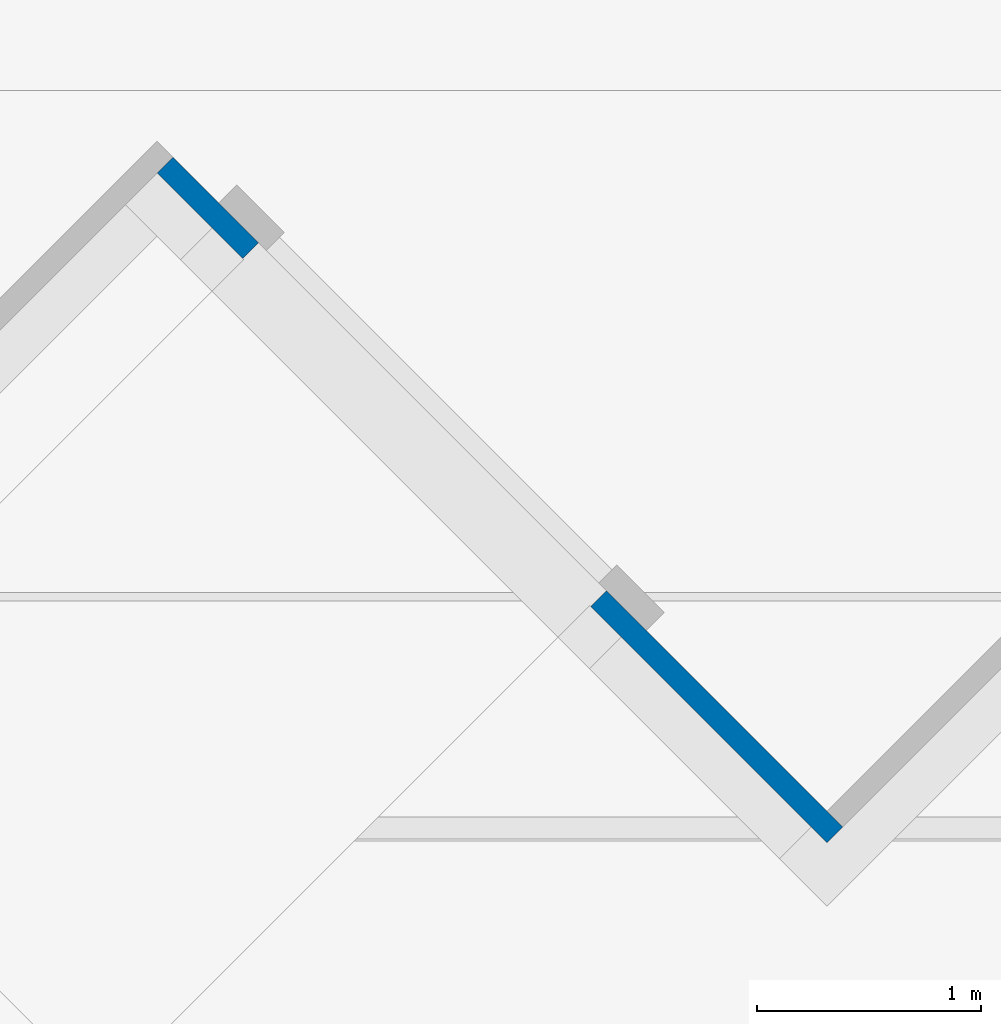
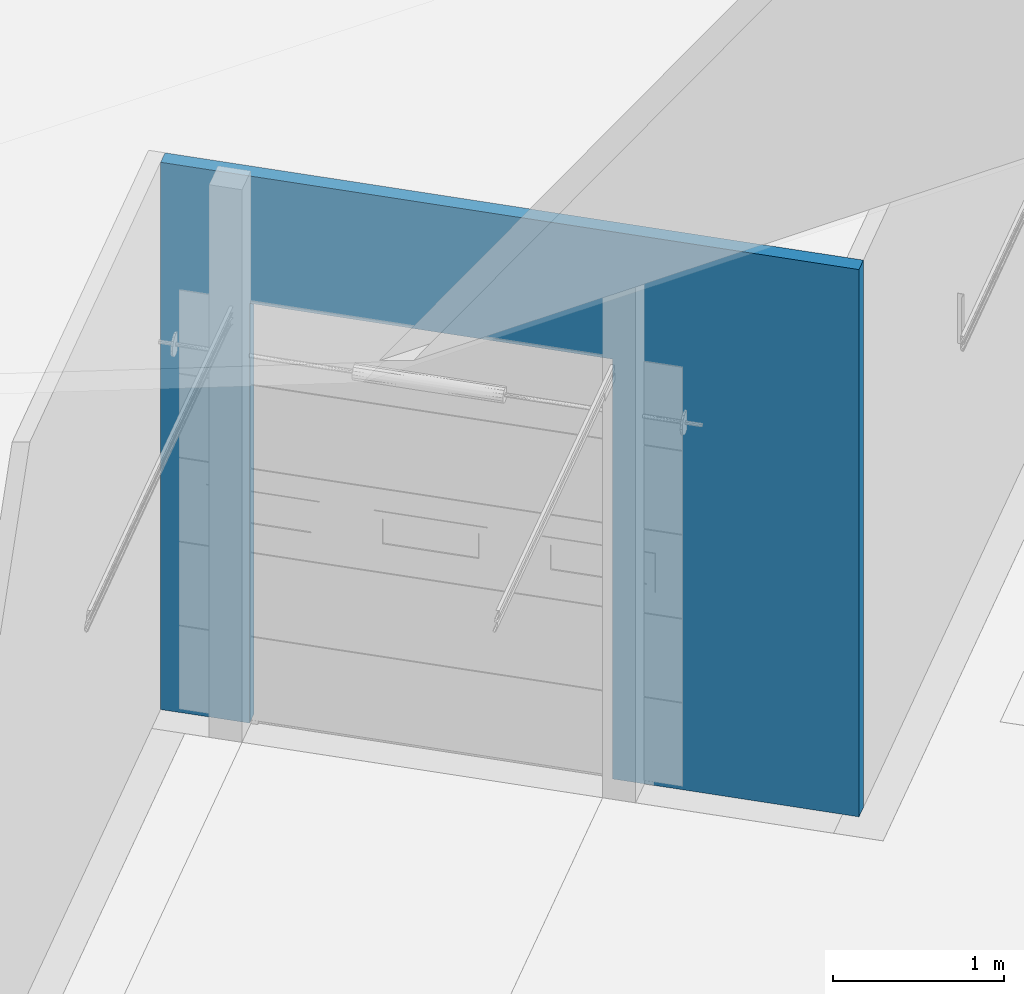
# One storey, part 42 of 64: 1 wall, 1 opening.
"""IFC2X3 building model written with IfcOpenShell, lengths in millimetres."""

from ifc_helpers import new_model, entity, si_unit, converted_unit, derived_unit, direction, frame, frame_2d, origin, place, context, subcontext, project, spatial, rectangle, extrude, material, layer, layer_set, layer_usage, type_object, element, save


model = new_model("IFC2X3")

# Units and contexts
model_context = context("Model", 3, precision=0.01, world=origin(), true_north=direction((4.05803320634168e-15, -1.0)))
body_context = subcontext(model_context, "Body", "Model", "MODEL_VIEW")
ifc_project = project(units=[si_unit("LENGTHUNIT", "METRE", prefix="MILLI"), si_unit("AREAUNIT", "SQUARE_METRE"), si_unit("VOLUMEUNIT", "CUBIC_METRE"), converted_unit("PLANEANGLEUNIT", "DEGREE", entity("IfcRatioMeasure", 0.0174532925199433), si_unit("PLANEANGLEUNIT", "RADIAN"), dimensions=[0, 0, 0, 0, 0, 0, 0]), si_unit("MASSUNIT", "GRAM", prefix="KILO"), derived_unit("MASSDENSITYUNIT", [(si_unit("MASSUNIT", "GRAM", prefix="KILO"), 1), (si_unit("LENGTHUNIT", "METRE"), -3)]), si_unit("TIMEUNIT", "SECOND"), si_unit("FREQUENCYUNIT", "HERTZ"), si_unit("THERMODYNAMICTEMPERATUREUNIT", "DEGREE_CELSIUS"), derived_unit("THERMALTRANSMITTANCEUNIT", [(si_unit("MASSUNIT", "GRAM", prefix="KILO"), 1), (si_unit("THERMODYNAMICTEMPERATUREUNIT", "KELVIN"), -1), (si_unit("TIMEUNIT", "SECOND"), -3)]), derived_unit("VOLUMETRICFLOWRATEUNIT", [(si_unit("LENGTHUNIT", "METRE"), 3), (si_unit("TIMEUNIT", "SECOND"), -1)]), si_unit("ELECTRICCURRENTUNIT", "AMPERE"), si_unit("ELECTRICVOLTAGEUNIT", "VOLT"), si_unit("POWERUNIT", "WATT"), si_unit("FORCEUNIT", "NEWTON", prefix="KILO"), si_unit("ILLUMINANCEUNIT", "LUX"), si_unit("LUMINOUSFLUXUNIT", "LUMEN"), si_unit("LUMINOUSINTENSITYUNIT", "CANDELA"), derived_unit("USERDEFINED", [(si_unit("MASSUNIT", "GRAM", prefix="KILO"), -1), (si_unit("LENGTHUNIT", "METRE"), -2), (si_unit("TIMEUNIT", "SECOND"), 3), (si_unit("LUMINOUSFLUXUNIT", "LUMEN"), 1)]), derived_unit("LINEARVELOCITYUNIT", [(si_unit("LENGTHUNIT", "METRE"), 1), (si_unit("TIMEUNIT", "SECOND"), -1)]), si_unit("PRESSUREUNIT", "PASCAL"), derived_unit("USERDEFINED", [(si_unit("LENGTHUNIT", "METRE"), -2), (si_unit("MASSUNIT", "GRAM", prefix="KILO"), 1), (si_unit("TIMEUNIT", "SECOND"), -2)])], contexts=[model_context])

# Site, building, storey
site_placement = place(None, frame((927466.849349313, 583801.882853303, 0.0), z_axis=(0.0, 0.0, 1.0), x_axis=(-1.0, 0.0, 0.0)))
site = spatial("IfcSite", under=ifc_project, at=site_placement, Name="Surface", CompositionType="ELEMENT")
building_placement = place(site_placement, origin())
building = spatial("IfcBuilding", under=site, at=building_placement, CompositionType="ELEMENT")
storey_placement = place(building_placement, frame((0.0, 0.0, 44170.0)))
storey = spatial("IfcBuildingStorey", under=building, at=storey_placement, Name="Ground FFL", CompositionType="ELEMENT", Elevation=44170.0)

# Wall, opening
ifc_material = material(Name="Isopenal")
ifc_layer = layer(ifc_material, 100.0)
ifc_layer_set = layer_set([ifc_layer], Name="Basic Wall:Isopanel")
ifc_layer_usage = layer_usage(ifc_layer_set, "AXIS2", "POSITIVE", -50.0)
wall_type = type_object("IfcWallType", Name="Basic Wall:Isopanel", PredefinedType="STANDARD", material=ifc_layer_set)
wall_placement = place(storey_placement, frame((-105025.776955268, -30575.5946140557, 0.0), z_axis=(0.0, 0.0, 1.0), x_axis=(0.707106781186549, -0.707106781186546, 0.0)))
wall = element("IfcWallStandardCase", 1, at=wall_placement, inside=storey, type_object=wall_type, material=ifc_layer_usage, Name="Basic Wall:Isopanel", ObjectType="Basic Wall:Isopanel", context=body_context, shape_type="SweptSolid", body=[
    extrude(rectangle(XDim=4232.26267936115, YDim=99.9999999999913, at=frame_2d((2116.13133968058, 8.13571432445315e-13), x_axis=(-1.0, 0.0))), origin(), (0.0, 0.0, 1.0), 3910.35154955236),
])
opening_placement = place(wall_placement, frame((1492.26267936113, -50.0, 0.0)))
element("IfcOpeningElement", 2, at=opening_placement, cuts=wall, Name="6m_Roller Shutter Doors:3000(w) x 3000(h):1", ObjectType="Opening", context=body_context, shape_type="SweptSolid", body=[
    extrude(rectangle(XDim=3000.0, YDim=2200.0, at=frame_2d((1500.0, 1100.0), x_axis=(1.0, 0.0))), frame((0.0, 0.0, 0.0), z_axis=(0.0, 1.0, 0.0), x_axis=(0.0, 0.0, 1.0)), (0.0, 0.0, 1.0), 100.0),
])

save(model, "model.ifc")
